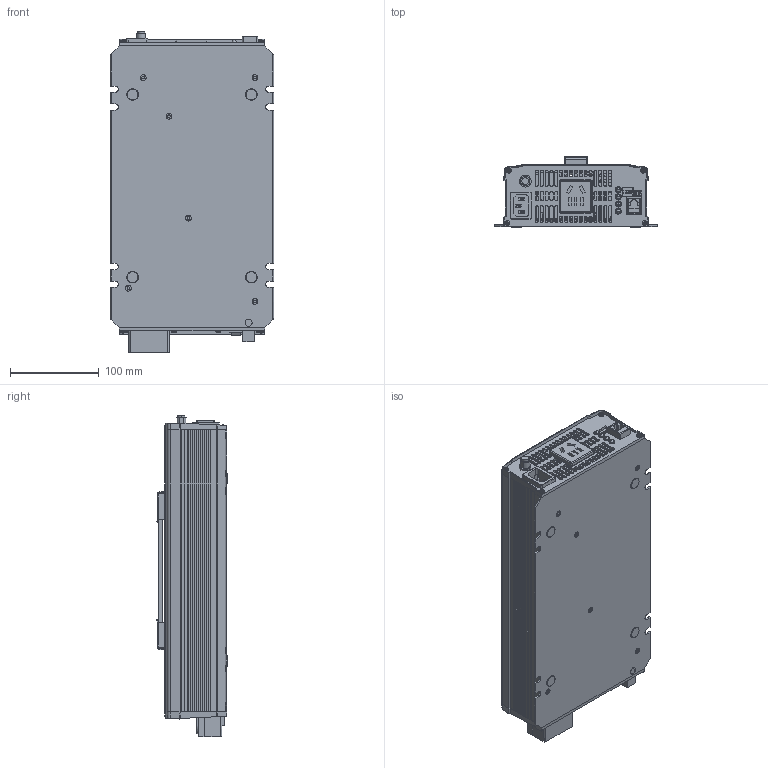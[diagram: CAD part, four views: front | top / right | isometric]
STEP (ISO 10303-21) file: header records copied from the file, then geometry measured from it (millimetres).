
FILE_DESCRIPTION(('Creo Elements/Direct Modeling STEP Export'),'2;1');
FILE_NAME('NTU-1200CN.stp','2024-07-09T13:44:07',(''),(''),'PTC Creo Elements/Direct Modeling STEP processor for AP214 (Solid Model)','PTC Creo Elements/Direct Modeling 19.0E 27-Jun-2016 (C) Parametric Technology GmbH','');
FILE_SCHEMA(('AUTOMOTIVE_DESIGN { 1 0 10303 214 1 1 1 1 }'));
Length unit declared in the file: millimetre
Products named in the file (120): 中国插; 中国插.stp; 19-30286-1312__w__.1.1.1.1; 19-30286-1312__w__.1.1.1; 19-30286-1312__w__.1; 19-30286-1312__w__.1.1; 螺丝1; 19-30286-1312__w__.1.2; 19-30286-1312__w__.1.2.1; 19-30286-1312__w__.1.2.1.1; 19-30286-1312__w__.1.2.1.1.1; 螺丝1.1; 螺丝; 1xx3NTU-1200-I; PCBB; PCBA; PCBC; PCB; PCB-D; 9727R_PCB_ASM_ASM_ASM_16_ASM_1_.ASM; STANDARD_ASM_ASM_ASM_16_ASM_1_A.ASM; 拨码开关; E_1_PRT_16_1_1_5.PRT; E_PRT_16_1_1_5.PRT; LED_1_PRT_2_1_1_1_1_1_1_PRT_16_.PRT.7; P1.PRT; PHONE_JACK_1.PRT; 9727R_PCB.ASM; STANDARD.ASM; 9727R_PHII.ASM; DP1; 小卡装配; MOS15_5X10_1_1_1_1_1_1_1_1_1_2_.PRT.27; P3; MOSTO3P_1_1_PRT_16_1_1_5.PRT.41; MOSTO3P_1_1_PRT_16_1_1_5.PRT.40; BREAKER; MOSTO3P_1_1_PRT_16_1_1_5.PRT.42; 22; 33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
Assembly tree (137 placements, depth 9):
  中国插.stp
    中国插
      中国插
  NTU-1200CN.stp
    NTU-1200
      1xx3NTU-1200CN-O
      装配1
        INPUT
        1GG
          YS031W-074.1
          YS031W-074
          HS-SZ901
          CU-177-1  x2
          HS-659
            HS3_1_ASM_5.ASM
              HS3_5.PRT
              PIN_1_5.PRT
          HS-660
          33_PRT_16_1_1_5.PRT.38  x2
          HS-272B
        1HH
          1HH2NTU-1200A.1
          130x65
          THERMAL_PAD-2_5.PRT
          THERMAL_PAD-1_8.PRT
          SI_PRT_16_1_1_5.PRT
          SILICONE_PAD_5.PRT
          MYLAR_PRT_16_1_1_5.PRT
          MYLAR-2_5.PRT
          1HH2NTU-120019
        CASE
          PAD
            FOOT_PAD_7_1.PRT.30
            FOOT_PAD_7_1.PRT.31
            FOOT_PAD_7_1.PRT
            FOOT_PAD_7_1.PRT.29
          固纬把手
            174
            guwei1
            guwei1.1
          CASE上盖
          CASE下盖
            M3-7L_1_PRT_16_1_1_5.PRT.1
            M3-7L_1_PRT_16_1_1_5.PRT
            M3-7L_1_PRT_16_1_1_5.PRT.6
            M3-7L_1_PRT_16_1_1_5.PRT.5
            77_PRT_16_1_1_5.PRT
            M3-7L_1_PRT_16_1_1_5.PRT.7
            M3-7L_1_PRT_16_1_1_5.PRT.9
            CASE
        装配
          T_7.PRT
          A1_1_ASM_ASM_ASM_16_ASM_1_ASM_1.ASM
            A_ASM_PRT_16_1_1_5.PRT
            ALL_ASM_ASM_ASM_16_ASM_1_ASM_1_.ASM
              MHS-2_PRT_PRT_16_1_1_5.PRT
              PCB_5_ASM_ASM_ASM_16_ASM_1_ASM_.ASM
                A3_ASM_ASM_ASM_16_ASM_1_ASM_1_A.ASM
                  _S___S_C_S_Y_S___X2_02C6_X0_O__.PRT
                  _S_Y_S_Q_S___S___PRT_PRT_16_1_1.PRT
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Bounding box: 184 x 79.45 x 363.06 mm (x, y, z)
Volume: 1000942.2 mm3; surface area: 877661.4 mm2
Topology: 97 solids, 97 shells, 3645 faces, 9462 edges, 6199 vertices
Faces by surface type: plane 2320, cylinder 865, cone 343, bspline 52, torus 48, sphere 16, extrusion 1
Entity records: 103361 total; most frequent: CARTESIAN_POINT 22686, ORIENTED_EDGE 16504, DIRECTION 15445, EDGE_CURVE 8238, VECTOR 5755, LINE 5754, VERTEX_POINT 5399, AXIS2_PLACEMENT_3D 4845
